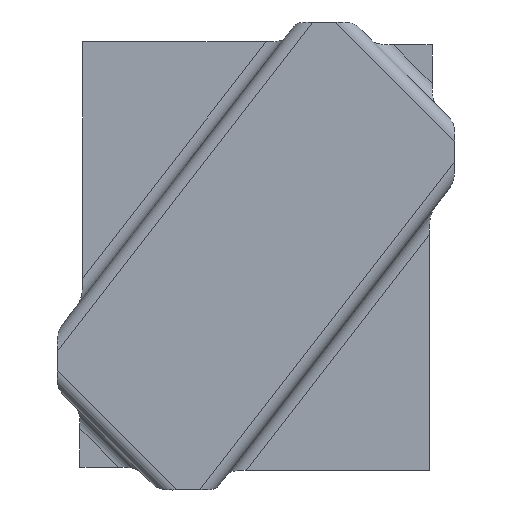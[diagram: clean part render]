
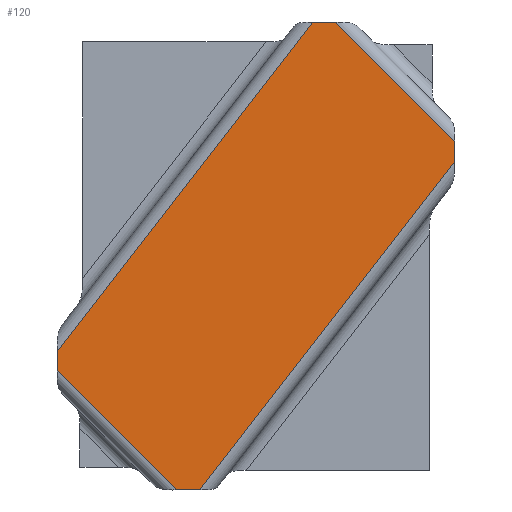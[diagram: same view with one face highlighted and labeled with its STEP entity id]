
A CAD part, top view. The second image highlights one B-rep face of the part: STEP entity #120.
In plain terms, the highlighted planar face has unit normal (0, 0, -1).
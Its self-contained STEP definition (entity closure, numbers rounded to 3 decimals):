
#53=CARTESIAN_POINT('Axis2P3D Location',(-51.176,39.698,65.268)) ;
#59=CARTESIAN_POINT('Control Point',(-51.176,79.11,65.268)) ;
#60=CARTESIAN_POINT('Control Point',(21.422,172.698,65.268)) ;
#61=CARTESIAN_POINT('Vertex',(-51.176,79.11,65.268)) ;
#63=CARTESIAN_POINT('Vertex',(21.422,172.698,65.268)) ;
#66=CARTESIAN_POINT('Line Origine',(5.324,172.698,65.268)) ;
#70=CARTESIAN_POINT('Vertex',(27.998,172.698,65.268)) ;
#74=CARTESIAN_POINT('Control Point',(27.998,172.698,65.268)) ;
#75=CARTESIAN_POINT('Control Point',(61.824,138.872,65.268)) ;
#76=CARTESIAN_POINT('Vertex',(61.824,138.872,65.268)) ;
#79=CARTESIAN_POINT('Line Origine',(61.824,106.198,65.268)) ;
#83=CARTESIAN_POINT('Vertex',(61.824,133.125,65.268)) ;
#87=CARTESIAN_POINT('Control Point',(61.824,133.125,65.268)) ;
#88=CARTESIAN_POINT('Control Point',(-10.649,39.698,65.268)) ;
#89=CARTESIAN_POINT('Vertex',(-10.649,39.698,65.268)) ;
#92=CARTESIAN_POINT('Line Origine',(5.324,39.698,65.268)) ;
#96=CARTESIAN_POINT('Vertex',(-17.35,39.698,65.268)) ;
#100=CARTESIAN_POINT('Control Point',(-51.176,73.524,65.268)) ;
#101=CARTESIAN_POINT('Control Point',(-17.35,39.698,65.268)) ;
#102=CARTESIAN_POINT('Vertex',(-51.176,73.524,65.268)) ;
#105=CARTESIAN_POINT('Line Origine',(-51.176,106.198,65.268)) ;
#54=DIRECTION('Axis2P3D Direction',(0.,0.,1.)) ;
#55=DIRECTION('Axis2P3D XDirection',(1.,0.,0.)) ;
#67=DIRECTION('Vector Direction',(1.,0.,0.)) ;
#80=DIRECTION('Vector Direction',(0.,1.,0.)) ;
#93=DIRECTION('Vector Direction',(1.,0.,0.)) ;
#106=DIRECTION('Vector Direction',(0.,1.,0.)) ;
#56=AXIS2_PLACEMENT_3D('Plane Axis2P3D',#53,#54,#55) ;
#111=ORIENTED_EDGE('',*,*,#65,.T.) ;
#112=ORIENTED_EDGE('',*,*,#72,.T.) ;
#113=ORIENTED_EDGE('',*,*,#78,.T.) ;
#114=ORIENTED_EDGE('',*,*,#85,.T.) ;
#115=ORIENTED_EDGE('',*,*,#91,.T.) ;
#116=ORIENTED_EDGE('',*,*,#98,.T.) ;
#117=ORIENTED_EDGE('',*,*,#104,.F.) ;
#118=ORIENTED_EDGE('',*,*,#109,.T.) ;
#68=VECTOR('Line Direction',#67,1.) ;
#81=VECTOR('Line Direction',#80,1.) ;
#94=VECTOR('Line Direction',#93,1.) ;
#107=VECTOR('Line Direction',#106,1.) ;
#120=ADVANCED_FACE('Offset.1',(#119),#57,.F.) ;
#58=B_SPLINE_CURVE_WITH_KNOTS('',1,(#59,#60),.UNSPECIFIED.,.F.,.U.,(2,2),(-59.222,59.222),.UNSPECIFIED.) ;
#73=B_SPLINE_CURVE_WITH_KNOTS('',1,(#74,#75),.UNSPECIFIED.,.F.,.U.,(2,2),(-23.919,23.919),.UNSPECIFIED.) ;
#86=B_SPLINE_CURVE_WITH_KNOTS('',1,(#87,#88),.UNSPECIFIED.,.F.,.U.,(2,2),(-59.121,59.121),.UNSPECIFIED.) ;
#99=B_SPLINE_CURVE_WITH_KNOTS('',1,(#100,#101),.UNSPECIFIED.,.F.,.U.,(2,2),(-23.919,23.919),.UNSPECIFIED.) ;
#65=EDGE_CURVE('',#62,#64,#58,.T.) ;
#72=EDGE_CURVE('',#64,#71,#69,.T.) ;
#78=EDGE_CURVE('',#71,#77,#73,.T.) ;
#85=EDGE_CURVE('',#77,#84,#82,.F.) ;
#91=EDGE_CURVE('',#84,#90,#86,.T.) ;
#98=EDGE_CURVE('',#90,#97,#95,.F.) ;
#104=EDGE_CURVE('',#103,#97,#99,.T.) ;
#109=EDGE_CURVE('',#103,#62,#108,.T.) ;
#110=EDGE_LOOP('',(#111,#112,#113,#114,#115,#116,#117,#118)) ;
#119=FACE_OUTER_BOUND('',#110,.T.) ;
#69=LINE('Line',#66,#68) ;
#82=LINE('Line',#79,#81) ;
#95=LINE('Line',#92,#94) ;
#108=LINE('Line',#105,#107) ;
#57=PLANE('',#56) ;
#62=VERTEX_POINT('',#61) ;
#64=VERTEX_POINT('',#63) ;
#71=VERTEX_POINT('',#70) ;
#77=VERTEX_POINT('',#76) ;
#84=VERTEX_POINT('',#83) ;
#90=VERTEX_POINT('',#89) ;
#97=VERTEX_POINT('',#96) ;
#103=VERTEX_POINT('',#102) ;
